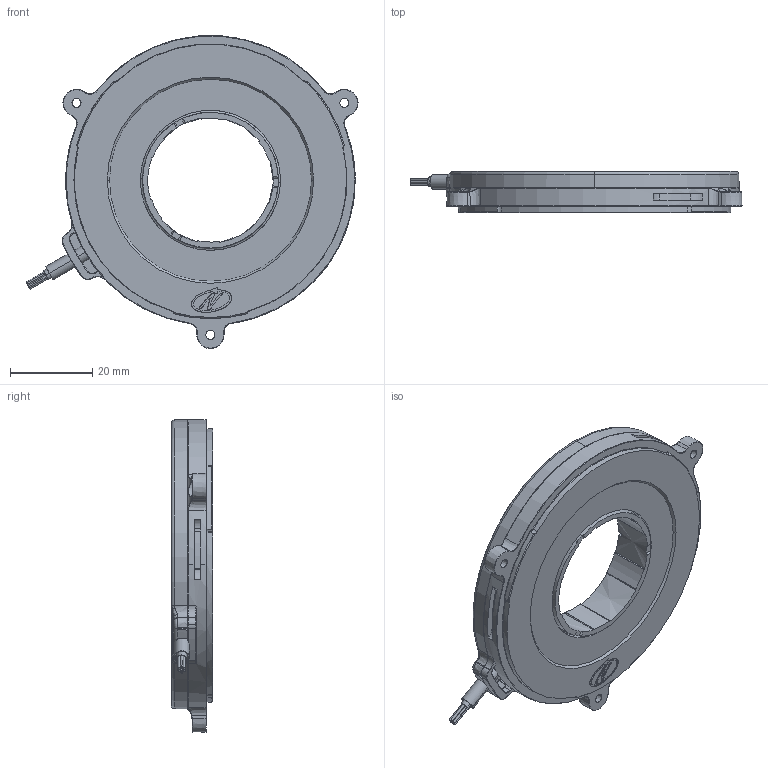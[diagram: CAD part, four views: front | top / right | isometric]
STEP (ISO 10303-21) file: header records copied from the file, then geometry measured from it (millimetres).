
FILE_DESCRIPTION (( 'STEP AP214' ), '1' );
FILE_NAME ('DS-70.STEP', '2025-03-24T09:32:02', ( '' ), ( '' ), 'SwSTEP 2.0', 'SolidWorks 2022', '' );
FILE_SCHEMA (( 'AUTOMOTIVE_DESIGN' ));
Length unit declared in the file: millimetre
Products named in the file (6): DS-70_CORE_ASSY_Envelope; MP-03439-05_DS-70 + cable; MP-03435_DS-70 Housing; DS-70; MP-03533; cable-6-wires sheilded and jacket_ds70
Assembly tree (5 placements, depth 3):
  DS-70
    MP-03435_DS-70 Housing
    DS-70_CORE_ASSY_Envelope
      MP-03533
    MP-03439-05_DS-70 + cable
    cable-6-wires sheilded and jacket_ds70
Bounding box: 80.5 x 10.02 x 75.9 mm (x, y, z)
Volume: 12724.1 mm3; surface area: 24975.4 mm2
Topology: 9 solids, 9 shells, 2749 faces, 7535 edges, 4851 vertices
Faces by surface type: plane 1560, cylinder 423, bspline 317, torus 232, cone 217
Entity records: 109563 total; most frequent: CARTESIAN_POINT 38563, ORIENTED_EDGE 15038, DIRECTION 12800, EDGE_CURVE 7519, VERTEX_POINT 4851, VECTOR 4686, LINE 4686, AXIS2_PLACEMENT_3D 4057
